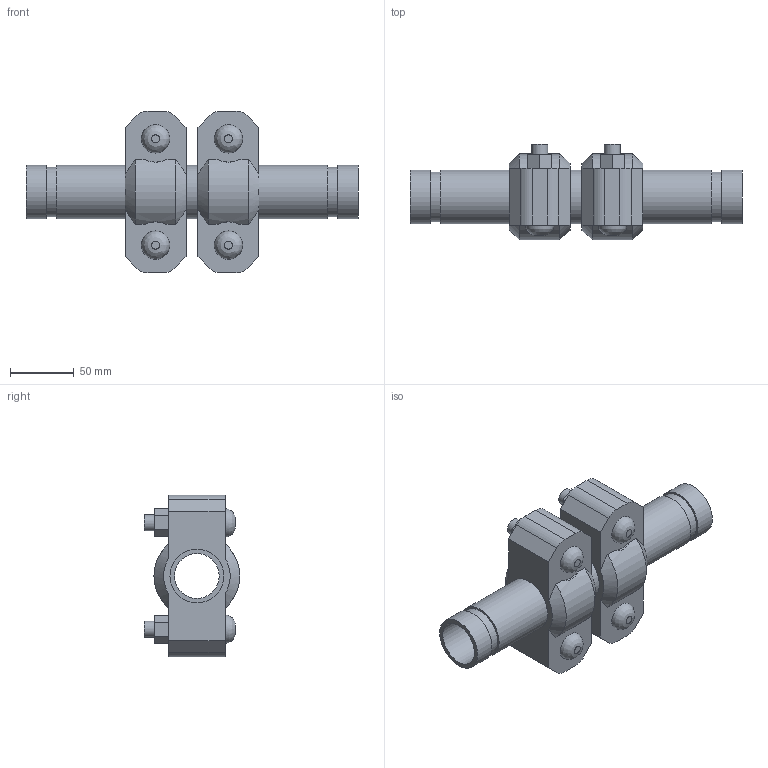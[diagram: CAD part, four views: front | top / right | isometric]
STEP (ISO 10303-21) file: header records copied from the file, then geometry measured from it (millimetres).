
FILE_DESCRIPTION(/* description */ ('VIC EXPANSION JOINT 2 COUPLINGS COMPRESSED STYLE 155 (OGS)','CAx-IF Rec.Pracs.---Representation and Presentation of Product Manufacturing Information (PMI)---4.0---2014-10-13'),/* implementation_level */ '2;1');
FILE_NAME(/* name */ 'C:\Users\kkamble\AppData\Roaming\Autodesk\ApplicationPlugins\Victaulic.Temp\A11\Victaulic_IPS_Expansion Joint_Compressed_2 Couplings_Style 155 (OGS)_1.25 (32).stp',/* time_stamp */ '2021-06-27T00:23:04+02:00',/* author */ ('kkamble'),/* organization */ ('Victaulic'),/* preprocessor_version */ 'ST-DEVELOPER v17.2',/* originating_system */ 'Autodesk Inventor 2019',/* authorisation */ '');
FILE_SCHEMA (('AP242_MANAGED_MODEL_BASED_3D_ENGINEERING_MIM_LF { 1 0 10303 442 1 1 4 }'));
Length unit declared in the file: inch
Products named in the file (4): 155-01.25; Nipple-01.25; Nipple-01.25_1; 077-01.25
Assembly tree (5 placements, depth 2):
  155-01.25
    Nipple-01.25  x2
    Nipple-01.25_1
    077-01.25  x2
Bounding box: 260.35 x 74.93 x 127 mm (x, y, z)
Volume: 563202.1 mm3; surface area: 149655.5 mm2
Topology: 5 solids, 9 shells, 150 faces, 368 edges, 260 vertices
Faces by surface type: plane 86, cylinder 52, cone 8, bspline 4
Full cylindrical faces by diameter (mm): 12.7 x8, 14.605 x4, 35.052 x3, 38.989 x6, 42.164 x11
Entity records: 2827 total; most frequent: CARTESIAN_POINT 535, DIRECTION 455, ORIENTED_EDGE 398, EDGE_CURVE 199, AXIS2_PLACEMENT_3D 180, VERTEX_POINT 142, EDGE_LOOP 105, LINE 95
